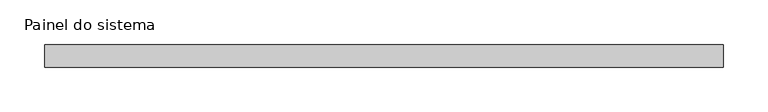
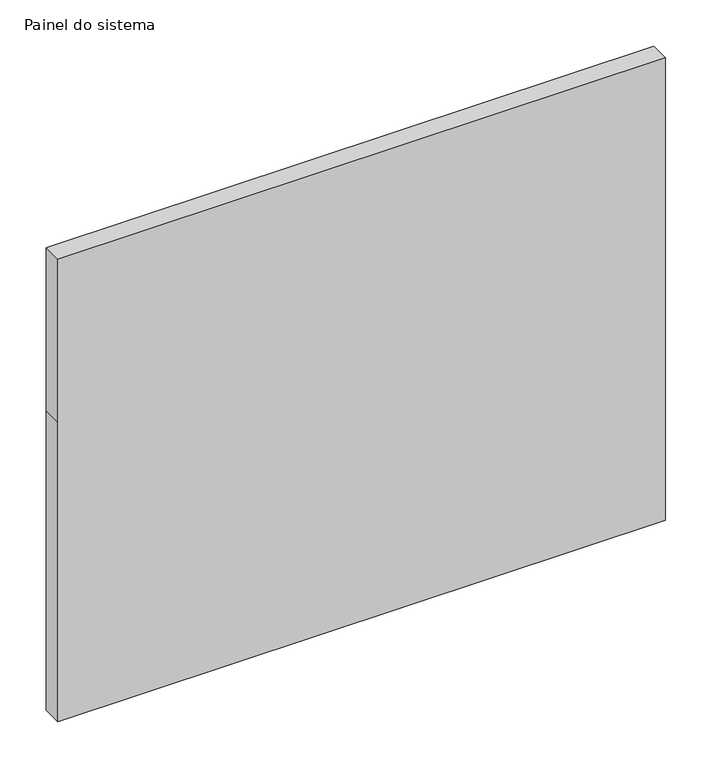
"""IFC4 building model written with IfcOpenShell, lengths in millimetres: plate geometry, Painel do sistema : Envidraçado."""

from ifc_helpers import new_model, si_unit, frame, origin, place, context, project, spatial, polyline, outline, extrude, source, transform, mapped, element, save


def painel_do_sistema_848bc04e(model_context):
    return source(origin(), model_context, "Body", "SweptSolid", [
        extrude(outline(polyline([(0.0, -379.1666667), (0.0, 379.1666667), (395.0, 379.1666667), (610.0, 379.1666667), (610.0, -379.1666667), (395.0, -379.1666667), (0.0, -379.1666667)])), frame((0.0, 24.5, 0.0), z_axis=(0.0, 1.0, 0.0), x_axis=(0.0, 0.0, 1.0)), (0.0, 0.0, 1.0), 25.0),
    ])


if __name__ == "__main__":
    model = new_model("IFC4")
    model_context = context("Model", 3, world=origin())
    ifc_project = project(units=[si_unit("LENGTHUNIT", "METRE", prefix="MILLI")], contexts=[model_context])
    site = spatial("IfcSite", under=ifc_project)
    building = spatial("IfcBuilding", under=site)
    placement = place(None, origin())
    painel_do_sistema_shape = painel_do_sistema_848bc04e(model_context)
    element("IfcPlate", 1, ObjectType="Painel do sistema : Envidraçado", at=placement, inside=building, context=model_context, shape_type="MappedRepresentation", body=[
        mapped(painel_do_sistema_shape, transform((0.0, 0.0, 0.0), x_axis=(1.0, 0.0, 0.0), y_axis=(0.0, 1.0, 0.0), z_axis=(0.0, 0.0, 1.0))),
    ])
    save(model, "model.ifc")
